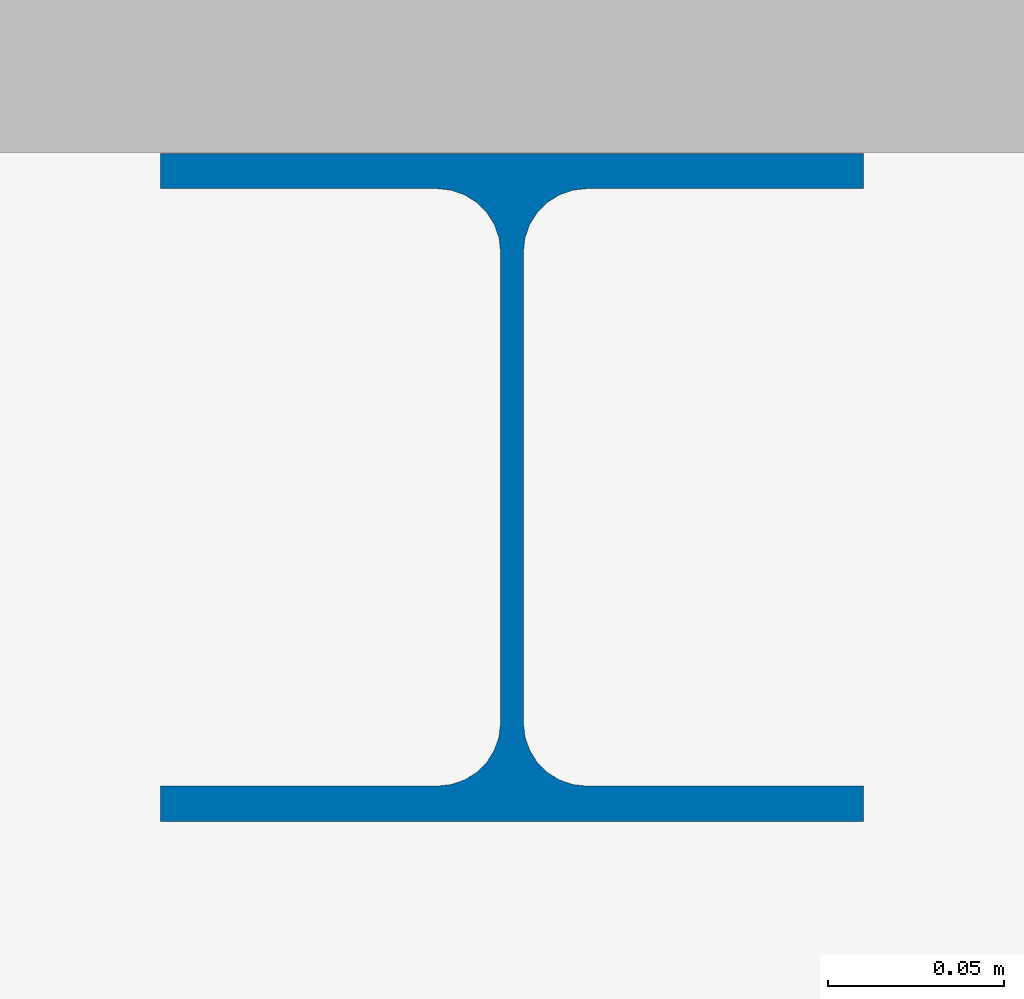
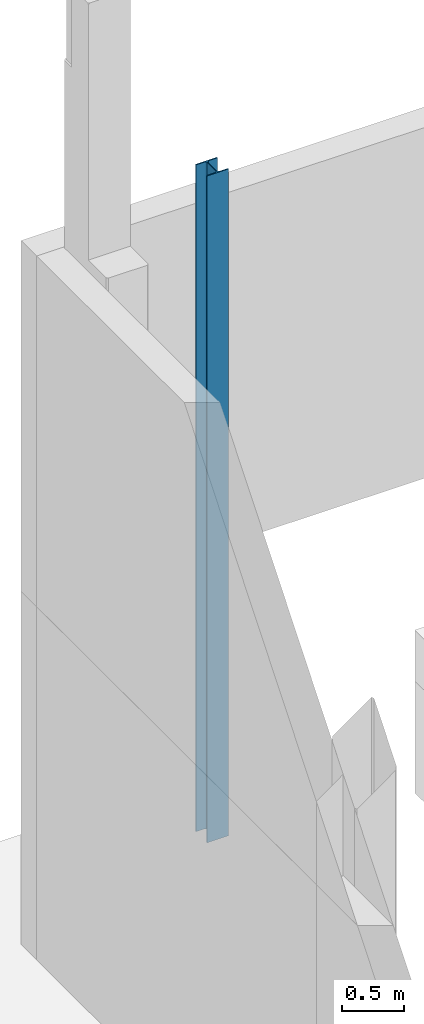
# One storey, part 3 of 12: 1 column.
"""IFC4X3_ADD2 building model written with IfcOpenShell, lengths in millimetres."""

from ifc_helpers import new_model, si_unit, point, direction, frame, frame_2d, origin_with_axes, place, context, subcontext, project, spatial, polyline, circle_curve, trimmed, segment, composite_curve, outline, extrude, source, transform, mapped, material, type_object, type_shapes, element, save


model = new_model("IFC4X3_ADD2")

# Units and contexts
model_context = context("Model", 3, precision=1e-05, world=origin_with_axes(), true_north=direction((0.0, 1.0)))
body_context = subcontext(model_context, "Body", "Model", "MODEL_VIEW")
ifc_project = project(units=[si_unit("LENGTHUNIT", "METRE", prefix="MILLI"), si_unit("AREAUNIT", "SQUARE_METRE"), si_unit("VOLUMEUNIT", "CUBIC_METRE"), si_unit("PLANEANGLEUNIT", "RADIAN"), si_unit("TIMEUNIT", "SECOND"), si_unit("MASSUNIT", "GRAM")], contexts=[model_context])

# Site, building, storey
site_placement = place(None, origin_with_axes())
site = spatial("IfcSite", under=ifc_project, at=site_placement, Name="Site", CompositionType="ELEMENT")
building_placement = place(site_placement, origin_with_axes())
building = spatial("IfcBuilding", under=site, at=building_placement, Name="IFC Building Story")
storey_placement = place(building_placement, frame((0.0, 0.0, -800.0), z_axis=(0.0, 0.0, 1.0), x_axis=(1.0, 0.0, 0.0)))
storey = spatial("IfcBuildingStorey", under=building, at=storey_placement, Name="FOND 00 (0)", Elevation=-800.0)

# Column
ifc_material = material(Name="BS_28_Métal")
column_type = type_object("IfcColumnType", Name="BS_28_SCO_LE_Poteau HE-A_HEA200", PredefinedType="NOTDEFINED")
shared_shape = source(origin_with_axes(), body_context, "Body", "SweptSolid", [
    extrude(outline(composite_curve([segment(polyline([(-99.99999999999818, -85.00000000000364), (-21.24999999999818, -85.00000000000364)]), True, "CONTINUOUS"), segment(trimmed(circle_curve(frame_2d((-21.25000000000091, -67.0), x_axis=(1.0, 0.0)), 18.00000000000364), [point((-21.24999999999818, -85.00000000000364))], [point((-3.249999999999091, -67.00000000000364))], True, "CARTESIAN"), True, "CONTINUOUS"), segment(polyline([(-3.249999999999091, -67.00000000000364), (-3.249999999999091, 67.0)]), True, "CONTINUOUS"), segment(trimmed(circle_curve(frame_2d((-21.25000000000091, 66.99999999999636), x_axis=(1.0, 0.0)), 18.00000000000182), [point((-3.249999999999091, 67.0))], [point((-21.24999999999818, 84.99999999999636))], True, "CARTESIAN"), True, "CONTINUOUS"), segment(polyline([(-21.24999999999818, 84.99999999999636), (-99.99999999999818, 84.99999999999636)]), True, "CONTINUOUS"), segment(polyline([(-99.99999999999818, 84.99999999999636), (-99.99999999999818, 94.99999999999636)]), True, "CONTINUOUS"), segment(polyline([(-99.99999999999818, 94.99999999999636), (100.0000000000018, 94.99999999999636)]), True, "CONTINUOUS"), segment(polyline([(100.0000000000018, 94.99999999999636), (100.0000000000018, 84.99999999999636)]), True, "CONTINUOUS"), segment(polyline([(100.0000000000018, 84.99999999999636), (21.25000000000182, 84.99999999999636)]), True, "CONTINUOUS"), segment(trimmed(circle_curve(frame_2d((21.25000000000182, 66.99999999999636), x_axis=(1.0, 0.0)), 18.0), [point((21.25000000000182, 84.99999999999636))], [point((3.250000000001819, 66.99999999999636))], True, "CARTESIAN"), True, "CONTINUOUS"), segment(polyline([(3.250000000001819, 66.99999999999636), (3.25, -67.00000000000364)]), True, "CONTINUOUS"), segment(trimmed(circle_curve(frame_2d((21.25000000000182, -67.0), x_axis=(1.0, 0.0)), 18.00000000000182), [point((3.25, -67.00000000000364))], [point((21.25000000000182, -85.00000000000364))], True, "CARTESIAN"), True, "CONTINUOUS"), segment(polyline([(21.25000000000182, -85.00000000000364), (100.0000000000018, -85.00000000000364)]), True, "CONTINUOUS"), segment(polyline([(100.0000000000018, -85.00000000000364), (100.0000000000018, -95.00000000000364)]), True, "CONTINUOUS"), segment(polyline([(100.0000000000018, -95.00000000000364), (-99.99999999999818, -95.00000000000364)]), True, "CONTINUOUS"), segment(polyline([(-99.99999999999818, -95.00000000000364), (-99.99999999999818, -85.00000000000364)]), True, "CONTINUOUS")], self_intersect=False)), frame((6090.189478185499, 17904.7285116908, 0.0), z_axis=(0.0, 0.0, 1.0), x_axis=(1.0, 0.0, 0.0)), (0.0, 0.0, 1.0), 6550.0),
])
type_shapes(column_type, [shared_shape])
column_placement = place(storey_placement, frame((0.0, 0.0, 800.0), z_axis=(0.0, 0.0, 1.0), x_axis=(1.0, 0.0, 0.0)))
element("IfcColumn", 1, at=column_placement, inside=storey, type_object=column_type, material=ifc_material, Name="BS_28_SCO_LE_Poteau HE-A:HEA200", ObjectType="HEA200", context=body_context, shape_type="MappedRepresentation", body=[
    mapped(shared_shape, transform((0.0, 0.0, 0.0))),
])

save(model, "model.ifc")
